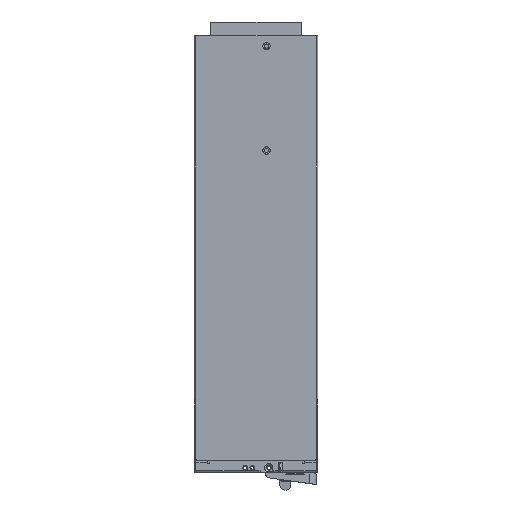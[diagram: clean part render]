
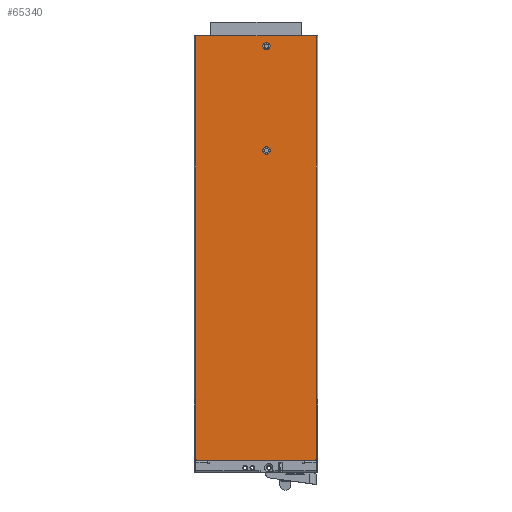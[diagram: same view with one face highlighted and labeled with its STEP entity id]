
A CAD part, top view. The second image highlights one B-rep face of the part: STEP entity #65340.
In plain terms, the highlighted planar face has unit normal (0, 0, 1) as drawn and (-1, 0, 0) by its records, which use the part's own axes.
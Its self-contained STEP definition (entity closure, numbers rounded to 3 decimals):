
#55880=CARTESIAN_POINT('',(73.837,98.952,
2.1));
#55890=VERTEX_POINT('',#55880);
#55980=CARTESIAN_POINT('',(73.837,348.752,
2.1));
#55990=VERTEX_POINT('',#55980);
#56020=CARTESIAN_POINT('',(73.837,372.252,2.1));
#56030=DIRECTION('',(0.,1.,0.));
#56040=VECTOR('',#56030,1.);
#56050=LINE('',#56020,#56040);
#56060=EDGE_CURVE('',#55890,#55990,#56050,.T.);
#59320=CARTESIAN_POINT('',(73.837,348.752,
84.9));
#59330=VERTEX_POINT('',#59320);
#59360=CARTESIAN_POINT('',(73.837,348.752,
1.385));
#59370=DIRECTION('',(0.,0.,-1.));
#59380=VECTOR('',#59370,1.);
#59390=LINE('',#59360,#59380);
#59400=EDGE_CURVE('',#59330,#55990,#59390,.T.);
#62010=CARTESIAN_POINT('',(73.837,98.952,
84.9));
#62020=VERTEX_POINT('',#62010);
#62050=CARTESIAN_POINT('',(73.837,92.252,
84.9));
#62060=DIRECTION('',(0.,-1.,0.));
#62070=VECTOR('',#62060,1.);
#62080=LINE('',#62050,#62070);
#62090=EDGE_CURVE('',#59330,#62020,#62080,.T.);
#62210=CARTESIAN_POINT('',(73.837,56.852,
1.385));
#62220=DIRECTION('',(0.,0.,1.));
#62230=VECTOR('',#62220,1.);
#62240=LINE('',#62210,#62230);
#62250=CARTESIAN_POINT('',(73.837,56.852,
3.15));
#62260=VERTEX_POINT('',#62250);
#62270=CARTESIAN_POINT('',(73.837,56.852,
83.85));
#62280=VERTEX_POINT('',#62270);
#62290=EDGE_CURVE('',#62260,#62280,#62240,.T.);
#62750=CARTESIAN_POINT('',(73.837,98.952,
84.85));
#62760=VERTEX_POINT('',#62750);
#62790=CARTESIAN_POINT('',(73.837,98.952,
1.385));
#62800=DIRECTION('',(0.,0.,1.));
#62810=VECTOR('',#62800,1.);
#62820=LINE('',#62790,#62810);
#62830=EDGE_CURVE('',#62760,#62020,#62820,.T.);
#64180=CARTESIAN_POINT('',(73.837,98.952,
1.385));
#64190=DIRECTION('',(0.,0.,1.));
#64200=VECTOR('',#64190,1.);
#64210=LINE('',#64180,#64200);
#64220=CARTESIAN_POINT('',(73.837,98.952,
2.15));
#64230=VERTEX_POINT('',#64220);
#64240=EDGE_CURVE('',#55890,#64230,#64210,.T.);
#64490=CARTESIAN_POINT('',(73.837,82.585,
2.15));
#64500=DIRECTION('',(0.,-1.,0.));
#64510=VECTOR('',#64500,1.);
#64520=LINE('',#64490,#64510);
#64530=CARTESIAN_POINT('',(73.837,57.852,
2.15));
#64540=VERTEX_POINT('',#64530);
#64550=EDGE_CURVE('',#64230,#64540,#64520,.T.);
#64680=CARTESIAN_POINT('',(73.837,92.252,
2.15));
#64690=DIRECTION('',(-1.,0.,0.));
#64700=DIRECTION('',(0.,0.,1.));
#64710=AXIS2_PLACEMENT_3D('',#64680,#64690,#64700);
#64720=PLANE('',#64710);
#64730=CARTESIAN_POINT('',(73.837,341.689,
50.75));
#64740=DIRECTION('',(-1.,0.,0.));
#64750=DIRECTION('',(0.,-1.,0.));
#64760=AXIS2_PLACEMENT_3D('',#64730,#64740,#64750);
#64770=CIRCLE('',#64760,2.5);
#64780=CARTESIAN_POINT('',(73.837,339.189,
50.75));
#64790=VERTEX_POINT('',#64780);
#64800=CARTESIAN_POINT('',(73.837,344.189,
50.75));
#64810=VERTEX_POINT('',#64800);
#64820=EDGE_CURVE('',#64790,#64810,#64770,.T.);
#64830=ORIENTED_EDGE('',*,*,#64820,.F.);
#64840=EDGE_CURVE('',#64810,#64790,#64770,.T.);
#64850=ORIENTED_EDGE('',*,*,#64840,.F.);
#64860=EDGE_LOOP('',(#64850,#64830));
#64870=FACE_BOUND('',#64860,.T.);
#64880=CARTESIAN_POINT('',(73.837,269.939,
50.75));
#64890=DIRECTION('',(-1.,0.,0.));
#64900=DIRECTION('',(0.,-1.,0.));
#64910=AXIS2_PLACEMENT_3D('',#64880,#64890,#64900);
#64920=CIRCLE('',#64910,2.5);
#64930=CARTESIAN_POINT('',(73.837,267.439,
50.75));
#64940=VERTEX_POINT('',#64930);
#64950=CARTESIAN_POINT('',(73.837,272.439,
50.75));
#64960=VERTEX_POINT('',#64950);
#64970=EDGE_CURVE('',#64940,#64960,#64920,.T.);
#64980=ORIENTED_EDGE('',*,*,#64970,.F.);
#64990=EDGE_CURVE('',#64960,#64940,#64920,.T.);
#65000=ORIENTED_EDGE('',*,*,#64990,.F.);
#65010=EDGE_LOOP('',(#65000,#64980));
#65020=FACE_BOUND('',#65010,.T.);
#65030=ORIENTED_EDGE('',*,*,#64240,.T.);
#65040=ORIENTED_EDGE('',*,*,#56060,.F.);
#65050=ORIENTED_EDGE('',*,*,#59400,.T.);
#65060=ORIENTED_EDGE('',*,*,#62090,.F.);
#65070=ORIENTED_EDGE('',*,*,#62830,.T.);
#65080=CARTESIAN_POINT('',(73.837,82.585,
84.85));
#65090=DIRECTION('',(0.,-1.,0.));
#65100=VECTOR('',#65090,1.);
#65110=LINE('',#65080,#65100);
#65120=CARTESIAN_POINT('',(73.837,57.852,
84.85));
#65130=VERTEX_POINT('',#65120);
#65140=EDGE_CURVE('',#62760,#65130,#65110,.T.);
#65150=ORIENTED_EDGE('',*,*,#65140,.F.);
#65160=CARTESIAN_POINT('',(73.837,57.852,
83.85));
#65170=DIRECTION('',(1.,0.,0.));
#65180=DIRECTION('',(0.,0.,-1.));
#65190=AXIS2_PLACEMENT_3D('',#65160,#65170,#65180);
#65200=CIRCLE('',#65190,1.);
#65210=EDGE_CURVE('',#65130,#62280,#65200,.T.);
#65220=ORIENTED_EDGE('',*,*,#65210,.F.);
#65230=ORIENTED_EDGE('',*,*,#62290,.T.);
#65240=CARTESIAN_POINT('',(73.837,57.852,
3.15));
#65250=DIRECTION('',(-1.,0.,0.));
#65260=DIRECTION('',(0.,0.,1.));
#65270=AXIS2_PLACEMENT_3D('',#65240,#65250,#65260);
#65280=CIRCLE('',#65270,1.);
#65290=EDGE_CURVE('',#64540,#62260,#65280,.T.);
#65300=ORIENTED_EDGE('',*,*,#65290,.T.);
#65310=ORIENTED_EDGE('',*,*,#64550,.T.);
#65320=EDGE_LOOP('',(#65310,#65300,#65230,#65220,#65150,#65070,#65060,
#65050,#65040,#65030));
#65330=FACE_OUTER_BOUND('',#65320,.T.);
#65340=ADVANCED_FACE('',(#64870,#65020,#65330),#64720,.T.);
